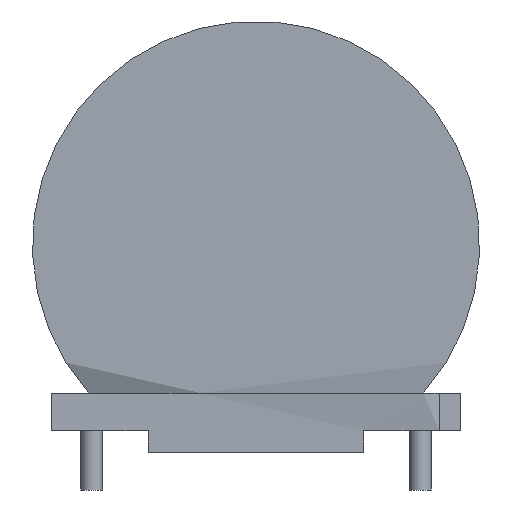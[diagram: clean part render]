
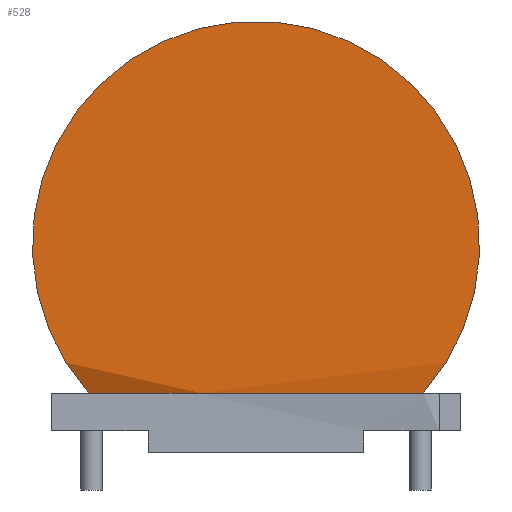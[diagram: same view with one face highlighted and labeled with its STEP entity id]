
A CAD part, front view. The second image highlights one B-rep face of the part: STEP entity #528.
In plain terms, the highlighted planar face has unit normal (0, -1, 0).
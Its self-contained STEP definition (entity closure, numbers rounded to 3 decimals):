
#36=CIRCLE('',#578,20.75);
#55=FACE_OUTER_BOUND('',#94,.T.);
#94=EDGE_LOOP('',(#415,#416));
#152=LINE('',#849,#211);
#211=VECTOR('',#689,10.);
#234=VERTEX_POINT('',#753);
#235=VERTEX_POINT('',#755);
#324=EDGE_CURVE('',#235,#234,#152,.T.);
#325=EDGE_CURVE('',#234,#235,#36,.T.);
#415=ORIENTED_EDGE('',*,*,#324,.T.);
#416=ORIENTED_EDGE('',*,*,#325,.T.);
#496=PLANE('',#577);
#528=ADVANCED_FACE('',(#55),#496,.F.);
#577=AXIS2_PLACEMENT_3D('',#848,#687,#688);
#578=AXIS2_PLACEMENT_3D('',#850,#690,#691);
#687=DIRECTION('center_axis',(0.,1.,0.));
#688=DIRECTION('ref_axis',(0.,0.,1.));
#689=DIRECTION('',(1.,0.,0.));
#690=DIRECTION('center_axis',(0.,-1.,0.));
#691=DIRECTION('ref_axis',(0.749,0.,0.663));
#753=CARTESIAN_POINT('',(15.54,-11.375,3.5));
#755=CARTESIAN_POINT('',(-15.54,-10.875,3.5));
#848=CARTESIAN_POINT('Origin',(0.,-11.75,17.8));
#849=CARTESIAN_POINT('',(-19.,-11.75,3.5));
#850=CARTESIAN_POINT('Origin',(0.,-11.75,17.25));
